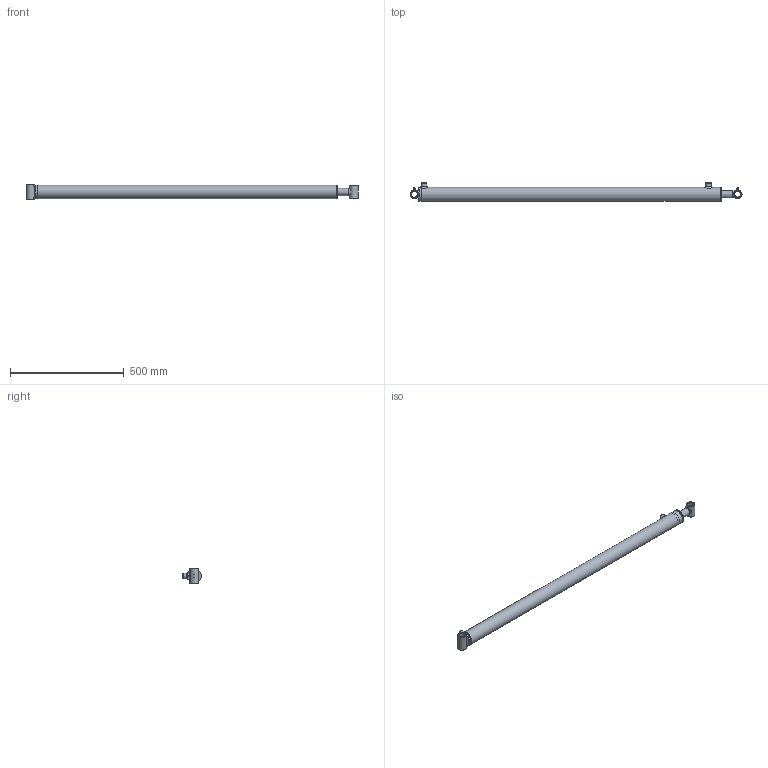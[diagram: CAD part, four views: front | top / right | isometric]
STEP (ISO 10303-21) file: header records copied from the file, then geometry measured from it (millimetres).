
FILE_DESCRIPTION(/* description */ (''),/* implementation_level */ '2;1');
FILE_NAME(/* name */ 'C:\01 - Philip\00 - Philip Rivard\01 - Contracts\Eagle Hydraulic Components\00 - 3D Cylinder\01 - Standard\HBU\HBU20XX\STEP\HBU2048.stp',/* time_stamp */ '2015-05-19T20:12:00-04:00',/* author */ ('Philip'),/* organization */ (''),/* preprocessor_version */ 'ST-DEVELOPER v16.1',/* originating_system */ 'Autodesk Inventor 2016',/* authorisation */ '');
FILE_SCHEMA (('AUTOMOTIVE_DESIGN { 1 0 10303 214 3 1 1 }'));
Length unit declared in the file: inch
Products named in the file (12): Tube_Welding_Welds; ECP-20-HBU; Tube; Straight_Port; Gland; Grease Fitting 1-8; Tube_Welding; Rod_Welding_Welds; Rod; Bushing; Rod_Welding; Cylinder_Assembly
Assembly tree (13 placements, depth 3):
  Cylinder_Assembly
    Tube_Welding
      Tube_Welding_Welds
      ECP-20-HBU
      Tube
      Straight_Port  x2
      Gland
      Grease Fitting 1-8
    Rod_Welding
      Rod_Welding_Welds
      Rod
      Bushing
      Grease Fitting 1-8
Bounding box: 1460.5 x 80.33 x 69.8 mm (x, y, z)
Volume: 2341462.1 mm3; surface area: 662889.8 mm2
Topology: 12 solids, 12 shells, 197 faces, 429 edges, 260 vertices
Faces by surface type: cone 65, plane 55, cylinder 50, torus 15, bspline 10, sphere 2
Full cylindrical faces by diameter (mm): 4 x2, 5 x1, 7.5 x2, 8 x2, 10 x2, 12.751 x2, 22 x1, 25 x4, 25.4 x2, 25.65 x2, 26 x1, 26.25 x1, 31.75 x2, 38.1 x2, 43 x1, 44.45 x1, 50.546 x1, 50.75 x1, 50.8 x1, 51 x1, 55 x4, 60.3 x1, 60.325 x1
Entity records: 6066 total; most frequent: CARTESIAN_POINT 2876, DIRECTION 631, ORIENTED_EDGE 486, AXIS2_PLACEMENT_3D 293, EDGE_LOOP 270, EDGE_CURVE 243, VERTEX_POINT 191, ADVANCED_FACE 157
